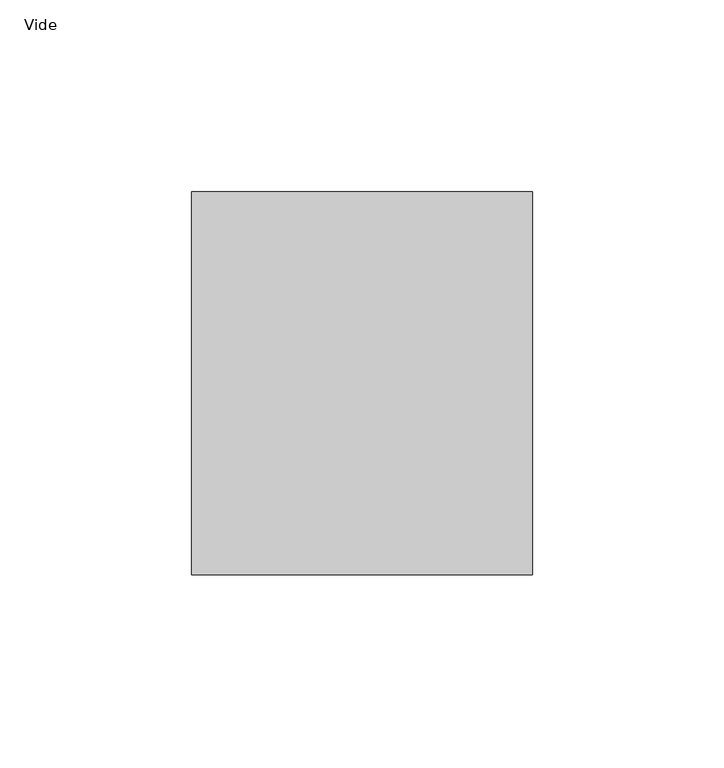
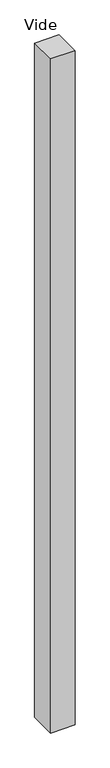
"""IFC4 building model written with IfcOpenShell, lengths in millimetres: plate geometry, Panneau système vide : Vide."""

from ifc_helpers import new_model, si_unit, origin, origin_with_axes, place, context, project, spatial, polyline, outline, extrude, source, transform, mapped, element, save


def vide_3626a5d1(model_context):
    return source(origin(), model_context, "Body", "SweptSolid", [
        extrude(outline(polyline([(44.5, 50.0), (-44.5, 50.0), (-44.5, 150.0), (44.5, 150.0), (44.5, 50.0)])), origin_with_axes(), (0.0, 0.0, 1.0), 2588.190451),
    ])


if __name__ == "__main__":
    model = new_model("IFC4")
    model_context = context("Model", 3, world=origin())
    ifc_project = project(units=[si_unit("LENGTHUNIT", "METRE", prefix="MILLI")], contexts=[model_context])
    site = spatial("IfcSite", under=ifc_project)
    building = spatial("IfcBuilding", under=site)
    placement = place(None, origin())
    vide_shape = vide_3626a5d1(model_context)
    element("IfcPlate", 1, ObjectType="Panneau système vide : Vide", at=placement, inside=building, context=model_context, shape_type="MappedRepresentation", body=[
        mapped(vide_shape, transform((0.0, 0.0, 0.0), x_axis=(1.0, 0.0, 0.0), y_axis=(0.0, 1.0, 0.0), z_axis=(0.0, 0.0, 1.0))),
    ])
    save(model, "model.ifc")
